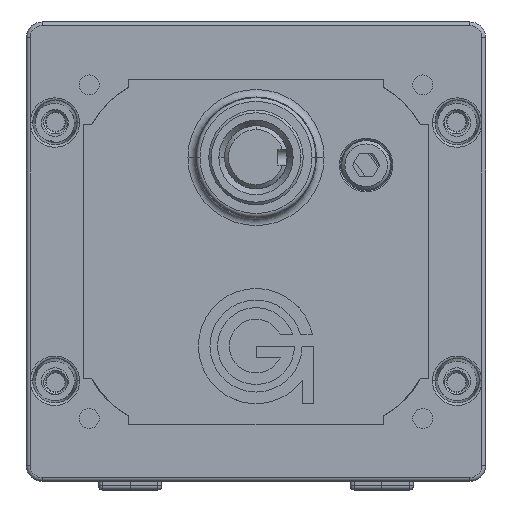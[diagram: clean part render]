
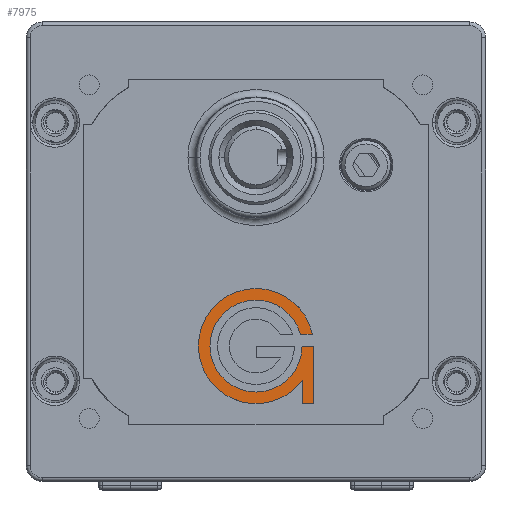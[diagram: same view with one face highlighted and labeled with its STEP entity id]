
A CAD part, top view. The second image highlights one B-rep face of the part: STEP entity #7975.
In plain terms, the highlighted planar face has unit normal (0, 0, 1).
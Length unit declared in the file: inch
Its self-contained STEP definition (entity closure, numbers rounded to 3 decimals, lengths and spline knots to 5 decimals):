
#961 = EDGE_CURVE ( 'NONE', #962, #963, #14208, .T. ) ;
#962 = VERTEX_POINT ( 'NONE', #14199 ) ;
#963 = VERTEX_POINT ( 'NONE', #14198 ) ;
#1029 = EDGE_CURVE ( 'NONE', #1030, #1031, #14382, .T. ) ;
#1030 = VERTEX_POINT ( 'NONE', #14373 ) ;
#1031 = VERTEX_POINT ( 'NONE', #14372 ) ;
#7956 = ORIENTED_EDGE ( 'NONE', *, *, #961, .T. ) ;
#7957 = ORIENTED_EDGE ( 'NONE', *, *, #7958, .T. ) ;
#7958 = EDGE_CURVE ( 'NONE', #963, #7959, #16097, .T. ) ;
#7959 = VERTEX_POINT ( 'NONE', #16093 ) ;
#7960 = ORIENTED_EDGE ( 'NONE', *, *, #7961, .T. ) ;
#7961 = EDGE_CURVE ( 'NONE', #7959, #1030, #16091, .T. ) ;
#7962 = ORIENTED_EDGE ( 'NONE', *, *, #1029, .T. ) ;
#7963 = ORIENTED_EDGE ( 'NONE', *, *, #7964, .T. ) ;
#7964 = EDGE_CURVE ( 'NONE', #1031, #7965, #16092, .T. ) ;
#7965 = VERTEX_POINT ( 'NONE', #16083 ) ;
#7966 = ORIENTED_EDGE ( 'NONE', *, *, #7967, .T. ) ;
#7967 = EDGE_CURVE ( 'NONE', #7965, #7979, #16145, .T. ) ;
#7975 = ADVANCED_FACE ( 'NONE', ( #16125 ), #16124, .T. ) ;
#7976 = EDGE_LOOP ( 'NONE', ( #7977, #7981, #8039, #7956, #7957, #7960, #7962, #7963, #7966 ) ) ;
#7977 = ORIENTED_EDGE ( 'NONE', *, *, #7978, .T. ) ;
#7978 = EDGE_CURVE ( 'NONE', #7979, #7980, #16119, .T. ) ;
#7979 = VERTEX_POINT ( 'NONE', #16115 ) ;
#7980 = VERTEX_POINT ( 'NONE', #16113 ) ;
#7981 = ORIENTED_EDGE ( 'NONE', *, *, #7982, .T. ) ;
#7982 = EDGE_CURVE ( 'NONE', #7980, #7983, #16174, .T. ) ;
#7983 = VERTEX_POINT ( 'NONE', #16170 ) ;
#8039 = ORIENTED_EDGE ( 'NONE', *, *, #8040, .T. ) ;
#8040 = EDGE_CURVE ( 'NONE', #7983, #962, #16250, .T. ) ;
#14198 = CARTESIAN_POINT ( 'NONE',  ( 0.35347, -0.657, -0.035 ) ) ;
#14199 = CARTESIAN_POINT ( 'NONE',  ( -0.3655, -0.75, -0.035 ) ) ;
#14200 = DIRECTION ( 'NONE',  ( 1., 0., 0. ) ) ;
#14201 = DIRECTION ( 'NONE',  ( 0., 0., -1. ) ) ;
#14202 = CARTESIAN_POINT ( 'NONE',  ( 0., -0.75, -0.035 ) ) ;
#14203 = AXIS2_PLACEMENT_3D ( 'NONE', #14202, #14201, #14200 ) ;
#14208 = CIRCLE ( 'NONE', #14203, 0.3655 ) ;
#14372 = CARTESIAN_POINT ( 'NONE',  ( 0.3655, -1.02517, -0.035 ) ) ;
#14373 = CARTESIAN_POINT ( 'NONE',  ( -0.4575, -0.75, -0.035 ) ) ;
#14374 = DIRECTION ( 'NONE',  ( 1., 0., 0. ) ) ;
#14375 = DIRECTION ( 'NONE',  ( 0., 0., 1. ) ) ;
#14376 = CARTESIAN_POINT ( 'NONE',  ( 0., -0.75, -0.035 ) ) ;
#14377 = AXIS2_PLACEMENT_3D ( 'NONE', #14376, #14375, #14374 ) ;
#14382 = CIRCLE ( 'NONE', #14377, 0.4575 ) ;
#16083 = CARTESIAN_POINT ( 'NONE',  ( 0.3655, -1.207, -0.035 ) ) ;
#16084 = DIRECTION ( 'NONE',  ( 0., -1., 0. ) ) ;
#16085 = VECTOR ( 'NONE', #16084, 39.37008 ) ;
#16086 = CARTESIAN_POINT ( 'NONE',  ( 0.3655, -1.207, -0.035 ) ) ;
#16087 = DIRECTION ( 'NONE',  ( 1., 0., 0. ) ) ;
#16088 = DIRECTION ( 'NONE',  ( 0., 0., 1. ) ) ;
#16089 = CARTESIAN_POINT ( 'NONE',  ( 0., -0.75, -0.035 ) ) ;
#16090 = AXIS2_PLACEMENT_3D ( 'NONE', #16089, #16088, #16087 ) ;
#16091 = CIRCLE ( 'NONE', #16090, 0.4575 ) ;
#16092 = LINE ( 'NONE', #16086, #16085 ) ;
#16093 = CARTESIAN_POINT ( 'NONE',  ( 0.44795, -0.657, -0.035 ) ) ;
#16094 = DIRECTION ( 'NONE',  ( 1., 0., 0. ) ) ;
#16095 = VECTOR ( 'NONE', #16094, 39.37008 ) ;
#16096 = CARTESIAN_POINT ( 'NONE',  ( 0.35347, -0.657, -0.035 ) ) ;
#16097 = LINE ( 'NONE', #16096, #16095 ) ;
#16113 = CARTESIAN_POINT ( 'NONE',  ( 0.4575, -0.75, -0.035 ) ) ;
#16115 = CARTESIAN_POINT ( 'NONE',  ( 0.4575, -1.207, -0.035 ) ) ;
#16116 = DIRECTION ( 'NONE',  ( 0., 1., 0. ) ) ;
#16117 = VECTOR ( 'NONE', #16116, 39.37008 ) ;
#16118 = CARTESIAN_POINT ( 'NONE',  ( 0.4575, -0.75, -0.035 ) ) ;
#16119 = LINE ( 'NONE', #16118, #16117 ) ;
#16120 = DIRECTION ( 'NONE',  ( 1., 0., 0. ) ) ;
#16121 = DIRECTION ( 'NONE',  ( 0., 0., 1. ) ) ;
#16122 = CARTESIAN_POINT ( 'NONE',  ( 0., -0.75, -0.035 ) ) ;
#16123 = AXIS2_PLACEMENT_3D ( 'NONE', #16122, #16121, #16120 ) ;
#16124 = PLANE ( 'NONE',  #16123 ) ;
#16125 = FACE_OUTER_BOUND ( 'NONE', #7976, .T. ) ;
#16142 = DIRECTION ( 'NONE',  ( 1., 0., 0. ) ) ;
#16143 = VECTOR ( 'NONE', #16142, 39.37008 ) ;
#16144 = CARTESIAN_POINT ( 'NONE',  ( 0.3655, -1.207, -0.035 ) ) ;
#16145 = LINE ( 'NONE', #16144, #16143 ) ;
#16170 = CARTESIAN_POINT ( 'NONE',  ( 0.3655, -0.75, -0.035 ) ) ;
#16171 = DIRECTION ( 'NONE',  ( -1., 0., 0. ) ) ;
#16172 = VECTOR ( 'NONE', #16171, 39.37008 ) ;
#16173 = CARTESIAN_POINT ( 'NONE',  ( 0.3655, -0.75, -0.035 ) ) ;
#16174 = LINE ( 'NONE', #16173, #16172 ) ;
#16246 = DIRECTION ( 'NONE',  ( 1., 0., 0. ) ) ;
#16247 = DIRECTION ( 'NONE',  ( 0., 0., -1. ) ) ;
#16248 = CARTESIAN_POINT ( 'NONE',  ( 0., -0.75, -0.035 ) ) ;
#16249 = AXIS2_PLACEMENT_3D ( 'NONE', #16248, #16247, #16246 ) ;
#16250 = CIRCLE ( 'NONE', #16249, 0.3655 ) ;
